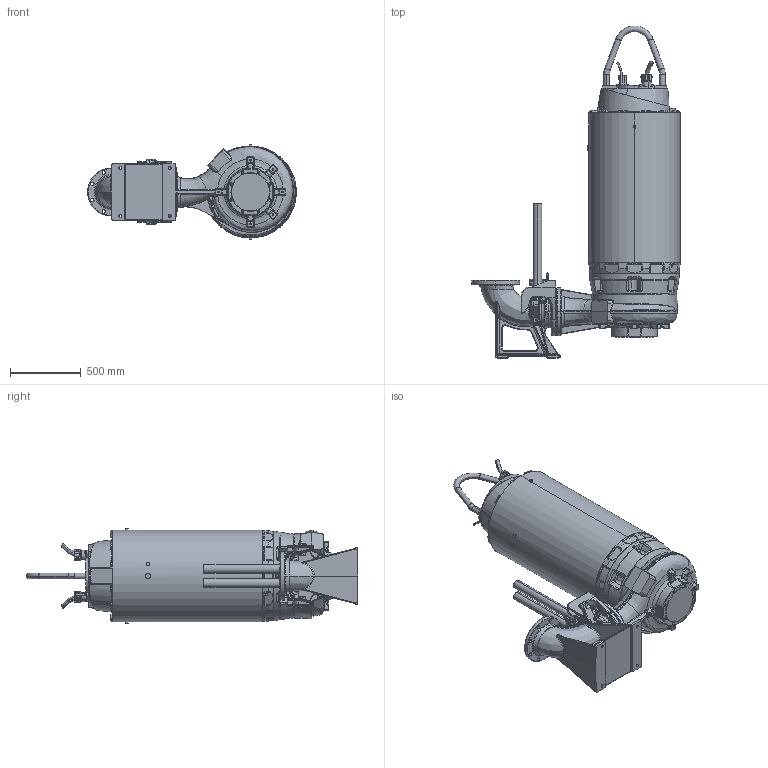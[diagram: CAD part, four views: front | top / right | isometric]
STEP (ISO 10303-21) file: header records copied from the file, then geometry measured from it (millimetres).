
FILE_DESCRIPTION (( 'STEP AP214' ), '1' );
FILE_NAME ('PE6_XFP200M-CH2_WET 2guide_A_NG2.STEP', '2017-03-17T07:41:59', ( '' ), ( '' ), 'SwSTEP 2.0', 'SolidWorks 2017', '' );
FILE_SCHEMA (( 'AUTOMOTIVE_DESIGN' ));
Length unit declared in the file: millimetre
Products named in the file (1): PE6_XFP200M-CH2_WET 2guide_A_NG2
Bounding box: 1472.69 x 2343.2 x 668 mm (x, y, z)
Volume: 563444690.4 mm3; surface area: 7089883.9 mm2
Topology: 4 solids, 16 shells, 4515 faces, 11063 edges, 6411 vertices
Faces by surface type: bspline 1385, cylinder 1033, plane 1032, torus 520, cone 355, sphere 190
Entity records: 278217 total; most frequent: CARTESIAN_POINT 133713, ORIENTED_EDGE 21578, DIRECTION 17720, EDGE_CURVE 10789, AXIS2_PLACEMENT_3D 7179, VERTEX_POINT 6405, EDGE_LOOP 4732, UNCERTAINTY_MEASURE_WITH_UNIT 4521
